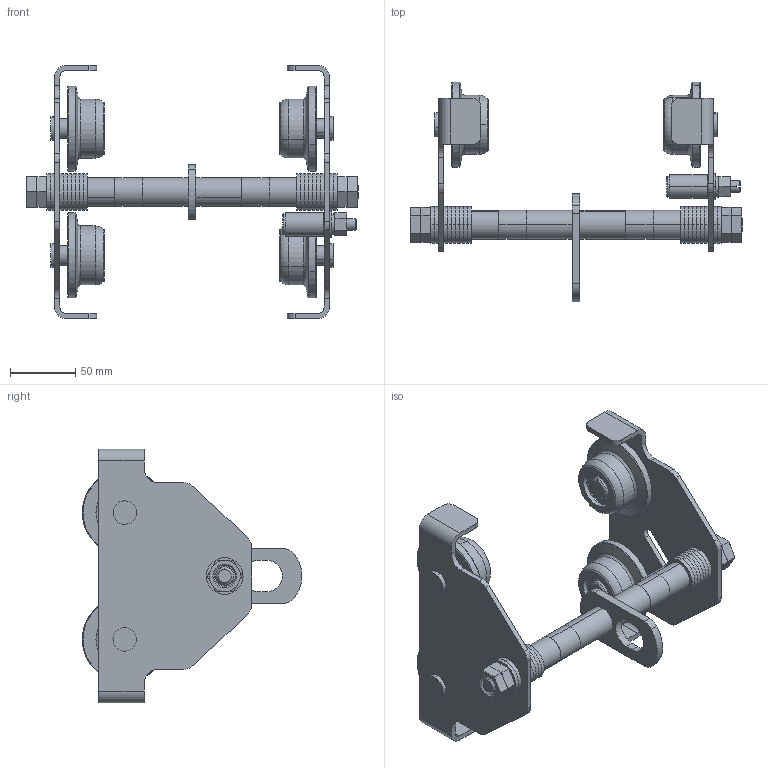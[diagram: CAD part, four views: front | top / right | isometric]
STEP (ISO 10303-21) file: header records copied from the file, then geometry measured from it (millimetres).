
FILE_DESCRIPTION (( 'STEP AP203' ), '1' );
FILE_NAME ('GCT719-0.25T軞蚾芞.STEP', '2023-03-23T00:56:10', ( '' ), ( '' ), 'SwSTEP 2.0', 'SolidWorks 2018', '' );
FILE_SCHEMA (( 'CONFIG_CONTROL_DESIGN' ));
Length unit declared in the file: millimetre
Products named in the file (20): GCT719-0.25-002左墙板; GCT719-0.25-006傻境褽杶; GCT719-0.25-004平衡套; GCT719-0.25-010垫圈; GCT719-0.25-008陬謫粣; GCT719-0.25-005挂梁（轨宽203mm）; GCT719-0.25T軞蚾芞; GCT719-0.25-003平衡轴; 弹簧垫圈10; 深沟球轴承6001_16002E ; 孔用弹性挡圈28; GCT719-0.25-001右墙板; GCT719-0.25-009粣創裔; 蚾饜极2; 平垫圈10; GCT719-0.25-012酗境褽杶; GCT719-0.25-007裂遠; 鞠褒蹟譫M10; 鞠褒情蹟譫M16; GCT719-0.25-011植雄陬謫
Assembly tree (49 placements, depth 3):
  GCT719-0.25T軞蚾芞
    GCT719-0.25-001右墙板
    GCT719-0.25-005挂梁（轨宽203mm）
    GCT719-0.25-008陬謫粣  x4
    蚾饜极2  x4
      GCT719-0.25-011植雄陬謫
      深沟球轴承6001_16002E 
      GCT719-0.25-009粣創裔
      孔用弹性挡圈28
    GCT719-0.25-012酗境褽杶  x2
    GCT719-0.25-007裂遠
    GCT719-0.25-002左墙板
    GCT719-0.25-003平衡轴
    GCT719-0.25-004平衡套
    平垫圈10
    弹簧垫圈10
    鞠褒蹟譫M10
    GCT719-0.25-006傻境褽杶  x4
    GCT719-0.25-010垫圈  x18
    鞠褒情蹟譫M16  x4
Bounding box: 254 x 167.92 x 194 mm (x, y, z)
Volume: 451600.4 mm3; surface area: 234206.7 mm2
Topology: 133 solids, 133 shells, 1476 faces, 3269 edges, 2044 vertices
Faces by surface type: cylinder 603, plane 333, torus 320, cone 150, sphere 64, bspline 6
Entity records: 21180 total; most frequent: CARTESIAN_POINT 6261, DIRECTION 2776, ORIENTED_EDGE 2324, AXIS2_PLACEMENT_3D 1179, EDGE_CURVE 1162, VERTEX_POINT 736, CIRCLE 616, EDGE_LOOP 594
